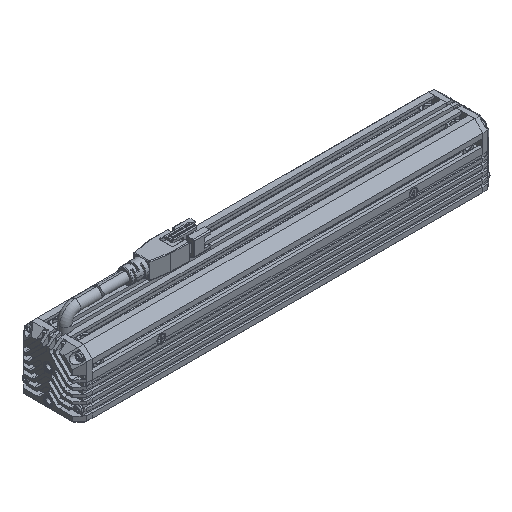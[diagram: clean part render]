
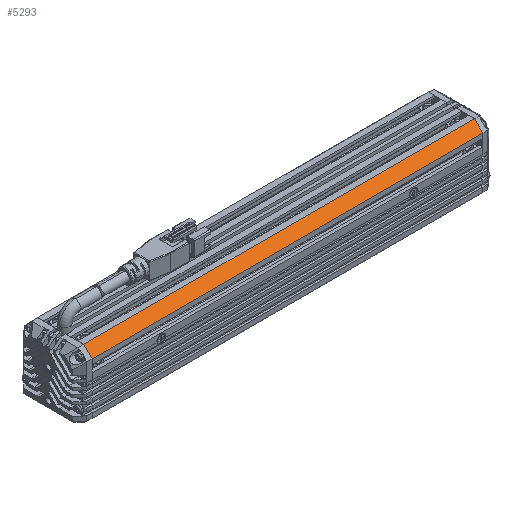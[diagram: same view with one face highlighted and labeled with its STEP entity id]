
A CAD part, isometric view. The second image highlights one B-rep face of the part: STEP entity #5293.
In plain terms, the highlighted planar face has unit normal (0, -0.707, 0.707).
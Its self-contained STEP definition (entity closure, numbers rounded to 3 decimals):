
#205=DIRECTION('',(0.,-0.707,-0.707));
#206=VECTOR('',#205,5.657);
#207=CARTESIAN_POINT('',(-93.,-11.,15.));
#208=LINE('',#207,#206);
#635=DIRECTION('',(0.,-0.707,-0.707));
#636=VECTOR('',#635,5.657);
#637=CARTESIAN_POINT('',(93.,-11.,15.));
#638=LINE('',#637,#636);
#1844=DIRECTION('',(1.,0.,0.));
#1845=VECTOR('',#1844,186.);
#1846=CARTESIAN_POINT('',(-93.,-11.,15.));
#1847=LINE('',#1846,#1845);
#1848=DIRECTION('',(1.,0.,0.));
#1849=VECTOR('',#1848,186.);
#1850=CARTESIAN_POINT('',(-93.,-15.,11.));
#1851=LINE('',#1850,#1849);
#2372=CARTESIAN_POINT('',(-93.,-11.,15.));
#2373=VERTEX_POINT('',#2372);
#2374=CARTESIAN_POINT('',(-93.,-15.,11.));
#2375=VERTEX_POINT('',#2374);
#2412=CARTESIAN_POINT('',(93.,-11.,15.));
#2413=VERTEX_POINT('',#2412);
#2414=CARTESIAN_POINT('',(93.,-15.,11.));
#2415=VERTEX_POINT('',#2414);
#5281=CARTESIAN_POINT('',(-93.,-11.,15.));
#5282=DIRECTION('',(0.,-0.707,0.707));
#5283=DIRECTION('',(0.,-0.707,-0.707));
#5284=AXIS2_PLACEMENT_3D('',#5281,#5282,#5283);
#5285=PLANE('',#5284);
#5286=ORIENTED_EDGE('',*,*,#3102,.F.);
#5287=ORIENTED_EDGE('',*,*,#5276,.T.);
#5288=ORIENTED_EDGE('',*,*,#3435,.T.);
#5290=ORIENTED_EDGE('',*,*,#5289,.F.);
#5291=EDGE_LOOP('',(#5286,#5287,#5288,#5290));
#5292=FACE_OUTER_BOUND('',#5291,.F.);
#3102=EDGE_CURVE('',#2373,#2375,#208,.T.);
#3435=EDGE_CURVE('',#2413,#2415,#638,.T.);
#5276=EDGE_CURVE('',#2373,#2413,#1847,.T.);
#5289=EDGE_CURVE('',#2375,#2415,#1851,.T.);
#5293=ADVANCED_FACE('',(#5292),#5285,.T.);
